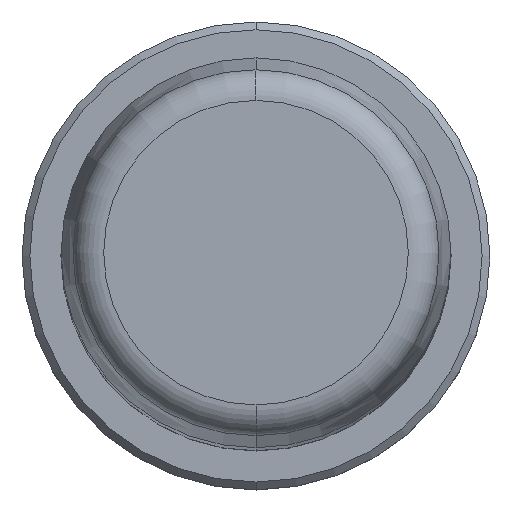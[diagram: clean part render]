
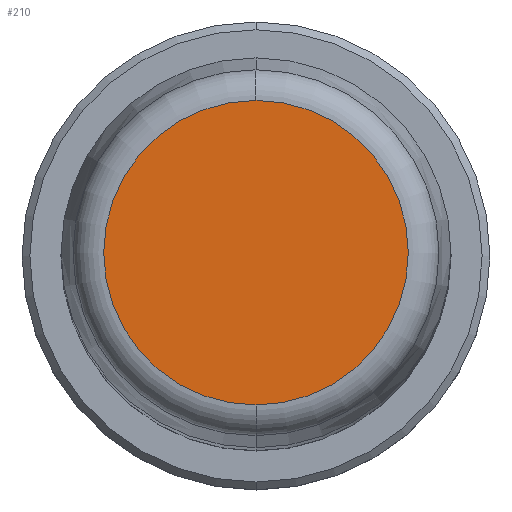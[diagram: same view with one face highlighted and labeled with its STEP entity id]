
A CAD part, top view. The second image highlights one B-rep face of the part: STEP entity #210.
In plain terms, the highlighted planar face has unit normal (0, 0, 1).
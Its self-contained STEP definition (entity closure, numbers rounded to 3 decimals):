
#1=CARTESIAN_POINT('',(0.,0.,125.));
#2=DIRECTION('',(0.,0.,-1.));
#3=DIRECTION('',(0.,-1.,0.));
#4=AXIS2_PLACEMENT_3D('',#1,#2,#3);
#6=CARTESIAN_POINT('',(0.,0.,125.));
#7=DIRECTION('',(0.,0.,-1.));
#8=DIRECTION('',(0.,1.,0.));
#9=AXIS2_PLACEMENT_3D('',#6,#7,#8);
#183=CARTESIAN_POINT('',(0.,-9.764,125.));
#184=CARTESIAN_POINT('',(0.,9.764,125.));
#185=VERTEX_POINT('',#183);
#186=VERTEX_POINT('',#184);
#199=CARTESIAN_POINT('',(0.,0.,125.));
#200=DIRECTION('',(0.,0.,1.));
#201=DIRECTION('',(0.,-1.,0.));
#202=AXIS2_PLACEMENT_3D('',#199,#200,#201);
#203=PLANE('',#202);
#205=ORIENTED_EDGE('',*,*,#204,.T.);
#207=ORIENTED_EDGE('',*,*,#206,.T.);
#208=EDGE_LOOP('',(#205,#207));
#209=FACE_OUTER_BOUND('',#208,.F.);
#210=ADVANCED_FACE('',(#209),#203,.T.);
#5=CIRCLE('',#4,9.764);
#10=CIRCLE('',#9,9.764);
#204=EDGE_CURVE('',#185,#186,#5,.T.);
#206=EDGE_CURVE('',#186,#185,#10,.T.);
